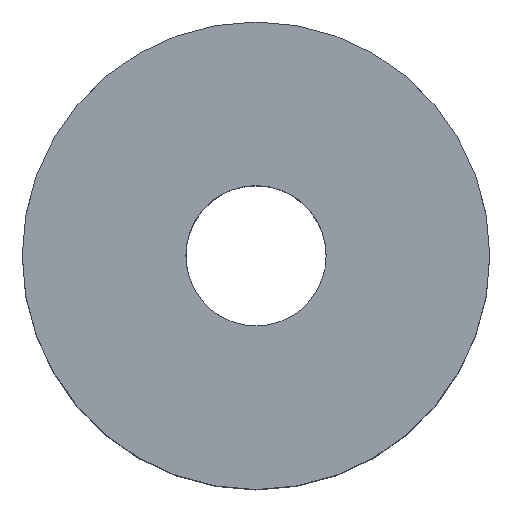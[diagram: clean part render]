
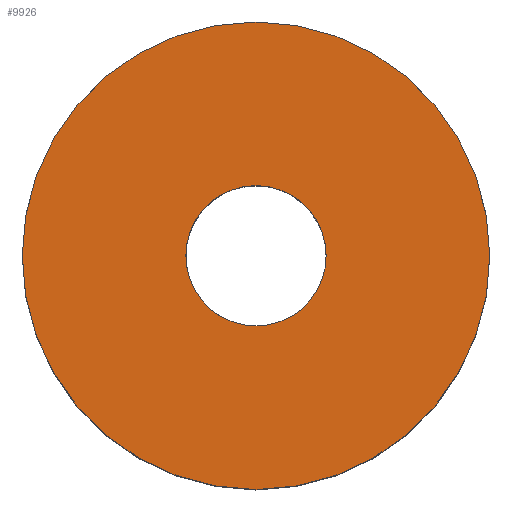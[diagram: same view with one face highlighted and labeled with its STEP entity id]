
A CAD part, top view. The second image highlights one B-rep face of the part: STEP entity #9926.
In plain terms, the highlighted planar face has unit normal (0, 0, 1).
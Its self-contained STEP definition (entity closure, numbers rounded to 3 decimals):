
#6815 = CYLINDRICAL_SURFACE('',#6816,2.1);
#6816 = AXIS2_PLACEMENT_3D('',#6817,#6818,#6819);
#6817 = CARTESIAN_POINT('',(48.,0.,24.2));
#6818 = DIRECTION('',(0.,0.,1.));
#6819 = DIRECTION('',(1.,0.,-0.));
#9874 = VERTEX_POINT('',#9875);
#9875 = CARTESIAN_POINT('',(50.1,0.,32.9));
#9896 = EDGE_CURVE('',#9874,#9874,#9897,.T.);
#9897 = SURFACE_CURVE('',#9898,(#9903,#9910),.PCURVE_S1.);
#9898 = CIRCLE('',#9899,2.1);
#9899 = AXIS2_PLACEMENT_3D('',#9900,#9901,#9902);
#9900 = CARTESIAN_POINT('',(48.,0.,32.9));
#9901 = DIRECTION('',(0.,0.,1.));
#9902 = DIRECTION('',(1.,0.,-0.));
#9903 = PCURVE('',#6815,#9904);
#9904 = DEFINITIONAL_REPRESENTATION('',(#9905),#9909);
#9905 = LINE('',#9906,#9907);
#9906 = CARTESIAN_POINT('',(0.,8.7));
#9907 = VECTOR('',#9908,1.);
#9908 = DIRECTION('',(1.,0.));
#9909 = ( GEOMETRIC_REPRESENTATION_CONTEXT(2) 
PARAMETRIC_REPRESENTATION_CONTEXT() REPRESENTATION_CONTEXT('2D SPACE',''
  ) );
#9910 = PCURVE('',#9911,#9916);
#9911 = PLANE('',#9912);
#9912 = AXIS2_PLACEMENT_3D('',#9913,#9914,#9915);
#9913 = CARTESIAN_POINT('',(48.,0.,32.9));
#9914 = DIRECTION('',(0.,0.,1.));
#9915 = DIRECTION('',(1.,0.,-0.));
#9916 = DEFINITIONAL_REPRESENTATION('',(#9917),#9921);
#9917 = CIRCLE('',#9918,2.1);
#9918 = AXIS2_PLACEMENT_2D('',#9919,#9920);
#9919 = CARTESIAN_POINT('',(0.,0.));
#9920 = DIRECTION('',(1.,0.));
#9921 = ( GEOMETRIC_REPRESENTATION_CONTEXT(2) 
PARAMETRIC_REPRESENTATION_CONTEXT() REPRESENTATION_CONTEXT('2D SPACE',''
  ) );
#9926 = ADVANCED_FACE('',(#9927,#9958),#9911,.T.);
#9927 = FACE_BOUND('',#9928,.T.);
#9928 = EDGE_LOOP('',(#9929));
#9929 = ORIENTED_EDGE('',*,*,#9930,.T.);
#9930 = EDGE_CURVE('',#9931,#9931,#9933,.T.);
#9931 = VERTEX_POINT('',#9932);
#9932 = CARTESIAN_POINT('',(55.,0.,32.9));
#9933 = SURFACE_CURVE('',#9934,(#9939,#9946),.PCURVE_S1.);
#9934 = CIRCLE('',#9935,7.);
#9935 = AXIS2_PLACEMENT_3D('',#9936,#9937,#9938);
#9936 = CARTESIAN_POINT('',(48.,0.,32.9));
#9937 = DIRECTION('',(0.,0.,1.));
#9938 = DIRECTION('',(1.,0.,-0.));
#9939 = PCURVE('',#9911,#9940);
#9940 = DEFINITIONAL_REPRESENTATION('',(#9941),#9945);
#9941 = CIRCLE('',#9942,7.);
#9942 = AXIS2_PLACEMENT_2D('',#9943,#9944);
#9943 = CARTESIAN_POINT('',(0.,0.));
#9944 = DIRECTION('',(1.,0.));
#9945 = ( GEOMETRIC_REPRESENTATION_CONTEXT(2) 
PARAMETRIC_REPRESENTATION_CONTEXT() REPRESENTATION_CONTEXT('2D SPACE',''
  ) );
#9946 = PCURVE('',#9947,#9952);
#9947 = CYLINDRICAL_SURFACE('',#9948,7.);
#9948 = AXIS2_PLACEMENT_3D('',#9949,#9950,#9951);
#9949 = CARTESIAN_POINT('',(48.,0.,32.28));
#9950 = DIRECTION('',(0.,0.,1.));
#9951 = DIRECTION('',(1.,0.,-0.));
#9952 = DEFINITIONAL_REPRESENTATION('',(#9953),#9957);
#9953 = LINE('',#9954,#9955);
#9954 = CARTESIAN_POINT('',(0.,0.62));
#9955 = VECTOR('',#9956,1.);
#9956 = DIRECTION('',(1.,0.));
#9957 = ( GEOMETRIC_REPRESENTATION_CONTEXT(2) 
PARAMETRIC_REPRESENTATION_CONTEXT() REPRESENTATION_CONTEXT('2D SPACE',''
  ) );
#9958 = FACE_BOUND('',#9959,.T.);
#9959 = EDGE_LOOP('',(#9960));
#9960 = ORIENTED_EDGE('',*,*,#9896,.F.);
